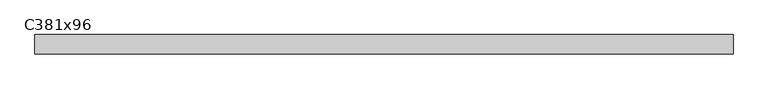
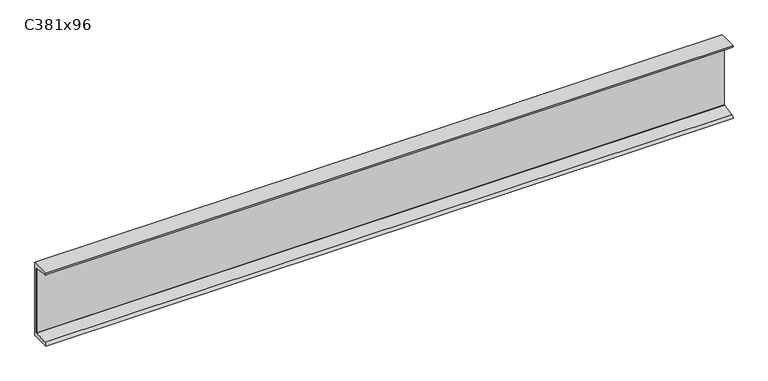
"""IFC4 building model written with IfcOpenShell, lengths in millimetres: beam geometry, M_C-Channel_305x105 : C381x96."""

from ifc_helpers import new_model, si_unit, point, frame, frame_2d, origin, place, context, project, spatial, polyline, circle_curve, trimmed, segment, composite_curve, outline, extrude, source, transform, mapped, element, save


def c381x96_e7f4985d(model_context):
    return source(origin(), model_context, "Body", "SweptSolid", [
        extrude(outline(composite_curve([segment(polyline([(16.8909985, 192.0), (16.8909985, -192.0), (-79.1090015, -192.0)]), True, "CONTINUOUS"), segment(trimmed(circle_curve(frame_2d((-66.4090015, -192.0)), 12.7), [point((-79.1090015, -192.0))], [point((-66.4090015, -179.3))], False, "CARTESIAN"), True, "CONTINUOUS"), segment(polyline([(-66.4090015, -179.3), (3.8909985, -168.1655738), (3.8909985, 168.1655738), (-66.4090015, 179.3)]), True, "CONTINUOUS"), segment(trimmed(circle_curve(frame_2d((-66.4090015, 192.0)), 12.7), [point((-66.4090015, 179.3))], [point((-79.1090015, 192.0))], False, "CARTESIAN"), True, "CONTINUOUS"), segment(polyline([(-79.1090015, 192.0), (16.8909985, 192.0)]), True, "CONTINUOUS")], self_intersect=False)), frame((81.1462653, 0.0, 0.0), z_axis=(1.0, 0.0, 0.0), x_axis=(0.0, 1.0, 0.0)), (0.0, 0.0, 1.0), 3439.0),
        extrude(outline(polyline([(-4.2340015, 168.3239583), (0.8909985, 167.512238), (0.8909985, -167.512238), (-4.2340015, -168.3239583), (-4.2340015, -165.995707), (-4.2340015, 168.3239583)])), frame((81.1462653, 0.0, 0.0), z_axis=(1.0, 0.0, 0.0), x_axis=(0.0, 1.0, 0.0)), (0.0, 0.0, 1.0), 3439.0),
    ])


if __name__ == "__main__":
    model = new_model("IFC4")
    model_context = context("Model", 3, world=origin())
    ifc_project = project(units=[si_unit("LENGTHUNIT", "METRE", prefix="MILLI")], contexts=[model_context])
    site = spatial("IfcSite", under=ifc_project)
    building = spatial("IfcBuilding", under=site)
    placement = place(None, origin())
    c381x96_shape = c381x96_e7f4985d(model_context)
    element("IfcBeam", 1, ObjectType="M_C-Channel_305x105 : C381x96", at=placement, inside=building, context=model_context, shape_type="MappedRepresentation", body=[
        mapped(c381x96_shape, transform((0.0, 0.0, 0.0), x_axis=(1.0, 0.0, 0.0), y_axis=(0.0, 1.0, 0.0), z_axis=(0.0, 0.0, 1.0))),
    ])
    save(model, "model.ifc")
